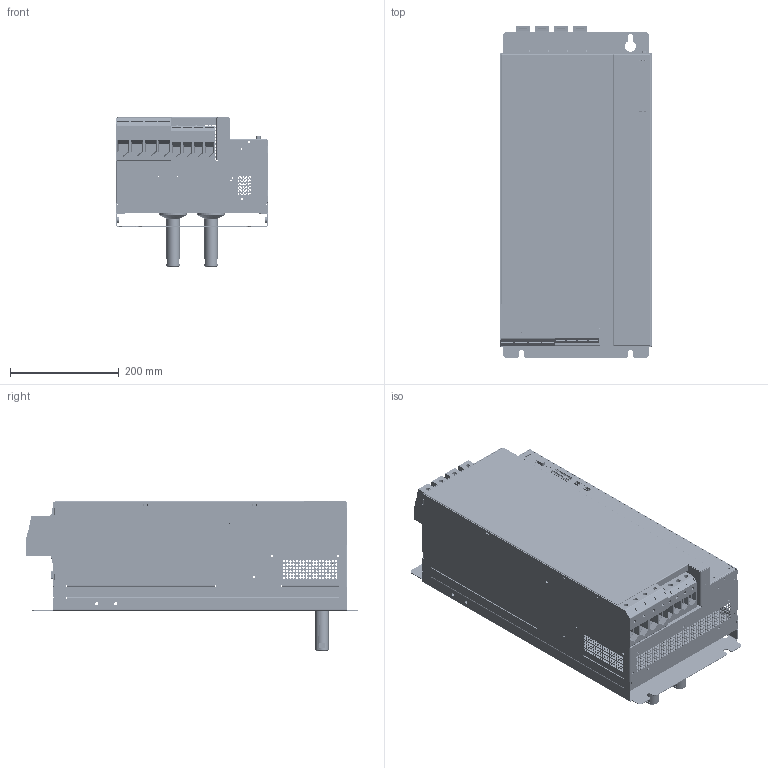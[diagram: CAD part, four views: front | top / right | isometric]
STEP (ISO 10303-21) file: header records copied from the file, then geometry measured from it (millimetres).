
FILE_DESCRIPTION (( 'STEP AP214' ), '1' );
FILE_NAME ('c-line BG7 Wasserkühlung.STEP', '2013-08-27T12:49:49', ( '' ), ( '' ), 'SwSTEP 2.0', 'SolidWorks 2012', '' );
FILE_SCHEMA (( 'AUTOMOTIVE_DESIGN' ));
Length unit declared in the file: millimetre
Products named in the file (23): 062-03948 HOCHSTR.-DURCHF. HDFK 95-F-VP Teil 1; 062-04157 HOCHSTR.-DURCHF. HDFK 95 PE; 062-04157 HOCHSTR.-DURCHF. HDFK 95 PE Teil 1; 062-04157 HOCHSTR.-DURCHF. HDFK 95 PE Teil 2; Servo one BG6_BG6A NT-klemmen; Stecker 2pol; Steuerprint CDE; 183_-01803-; 062-03944 HOCHSTROMKLEMME UKH50; 062-01331 HOCHSTROMKLEMME UKH95; 062-01349 Schutzleiterklemme USLKG 95; Schutzleiterklemme USLKG 95 Teil2; Schutzleiterklemme USLKG 95 Teil1; 183_-01646-; 183_-01777-; 183_-01778-; 183_-01761-; 183_-01669-; 183_-01669- Teil3; 183_-01669- Teil2; 183_-01669- Teil1; 183_-01666-; c-line BG7 Wasserkühlung
Assembly tree (31 placements, depth 3):
  c-line BG7 Wasserkühlung
    183_-01666-
    183_-01669-
      183_-01669- Teil1
      183_-01669- Teil2
      183_-01669- Teil3  x2
    183_-01761-
    183_-01778-
    183_-01777-
    183_-01646-
    062-01349 Schutzleiterklemme USLKG 95
      Schutzleiterklemme USLKG 95 Teil1
      Schutzleiterklemme USLKG 95 Teil2
    062-01331 HOCHSTROMKLEMME UKH95  x3
    062-03944 HOCHSTROMKLEMME UKH50  x4
    183_-01803-
    Steuerprint CDE
    Servo one BG6_BG6A NT-klemmen
      Stecker 2pol  x2
    062-04157 HOCHSTR.-DURCHF. HDFK 95 PE
      062-04157 HOCHSTR.-DURCHF. HDFK 95 PE Teil 2
      062-04157 HOCHSTR.-DURCHF. HDFK 95 PE Teil 1
    062-03948 HOCHSTR.-DURCHF. HDFK 95-F-VP Teil 1  x3
Bounding box: 280 x 610 x 274.5 mm (x, y, z)
Volume: 5140638.7 mm3; surface area: 2492404.9 mm2
Topology: 27 solids, 27 shells, 5595 faces, 15163 edges, 9872 vertices
Faces by surface type: plane 3071, bspline 1410, cylinder 965, cone 146, sphere 3
Entity records: 175887 total; most frequent: CARTESIAN_POINT 50862, ORIENTED_EDGE 26222, DIRECTION 19009, EDGE_CURVE 13111, VERTEX_POINT 8550, VECTOR 8383, LINE 8383, EDGE_LOOP 6827
